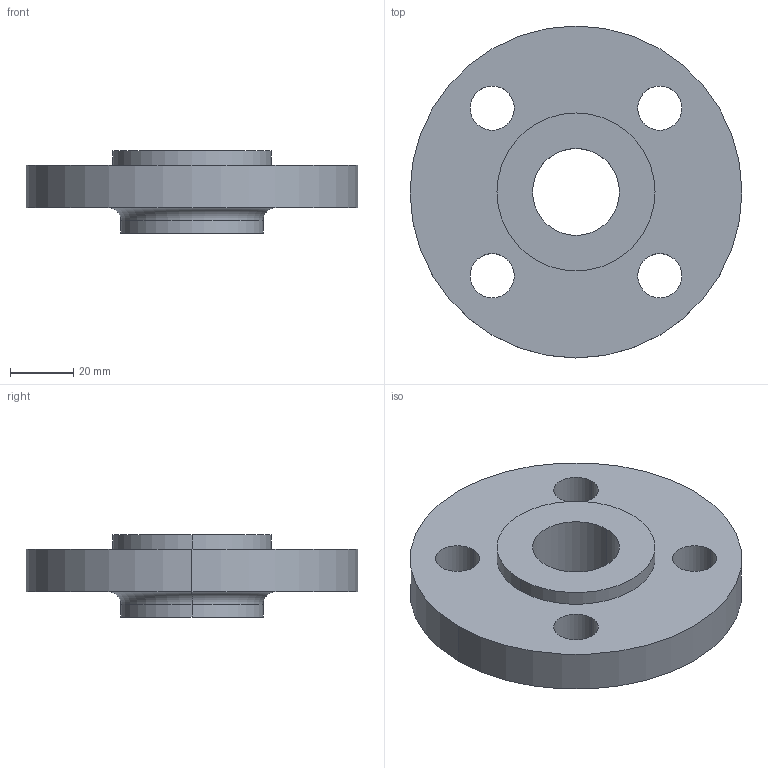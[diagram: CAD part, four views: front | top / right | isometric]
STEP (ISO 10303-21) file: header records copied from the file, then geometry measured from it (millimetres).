
FILE_DESCRIPTION (( 'STEP AP214' ), '1' );
FILE_NAME ('PN40 DN20 Type 12 - Type E Face.STEP', '2018-12-29T18:16:26', ( '' ), ( '' ), 'SwSTEP 2.0', 'SolidWorks 2019', '' );
FILE_SCHEMA (( 'AUTOMOTIVE_DESIGN' ));
Length unit declared in the file: millimetre
Products named in the file (1): PN40 DN20 Type 12 - Type E Face
Bounding box: 105 x 105 x 26 mm (x, y, z)
Volume: 115205 mm3; surface area: 25575.3 mm2
Topology: 1 solids, 1 shells, 22 faces, 52 edges, 34 vertices
Faces by surface type: cylinder 16, plane 4, torus 2
Entity records: 710 total; most frequent: DIRECTION 134, CARTESIAN_POINT 109, ORIENTED_EDGE 104, AXIS2_PLACEMENT_3D 59, EDGE_CURVE 52, CIRCLE 36, EDGE_LOOP 34, VERTEX_POINT 34
